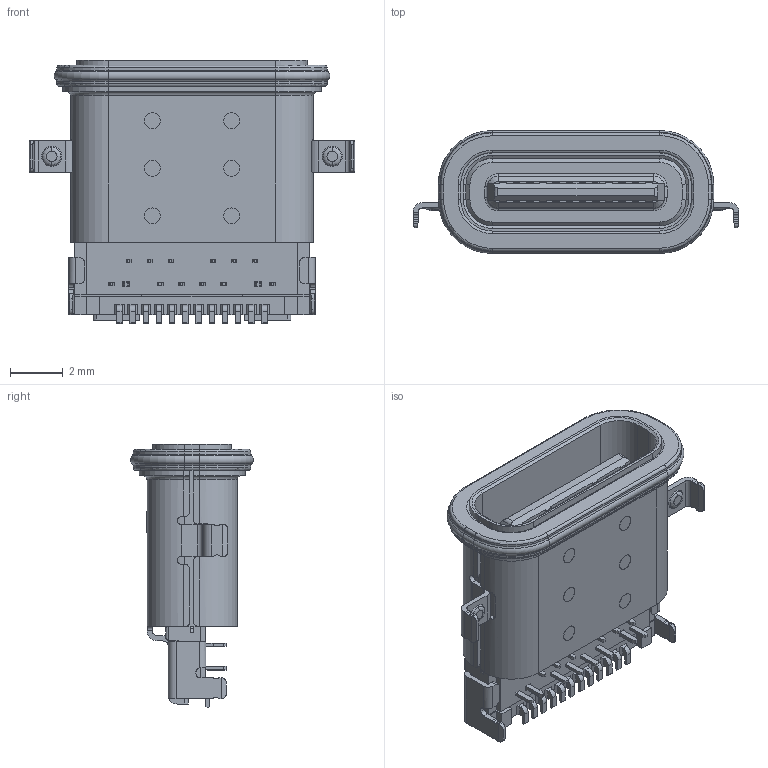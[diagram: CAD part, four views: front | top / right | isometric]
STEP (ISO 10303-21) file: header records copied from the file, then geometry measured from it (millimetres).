
FILE_DESCRIPTION (( 'STEP AP214' ), '1' );
FILE_NAME ('U5036-24PN1.06C9.85LF.STEP', '2026-06-01T00:51:01', ( '' ), ( '' ), 'SwSTEP 2.0', 'SolidWorks 2024', '' );
FILE_SCHEMA (( 'AUTOMOTIVE_DESIGN' ));
Length unit declared in the file: millimetre
Products named in the file (1): U5036-24PN1.06C9.85LF
Bounding box: 12.35 x 4.66 x 10 mm (x, y, z)
Volume: 162.6 mm3; surface area: 910.7 mm2
Topology: 2 solids, 60 shells, 1811 faces, 4722 edges, 3060 vertices
Faces by surface type: plane 1332, cylinder 357, torus 56, cone 36, bspline 30
Entity records: 57057 total; most frequent: CARTESIAN_POINT 12641, ORIENTED_EDGE 9432, DIRECTION 8789, EDGE_CURVE 4716, VECTOR 3685, LINE 3685, VERTEX_POINT 3060, AXIS2_PLACEMENT_3D 2552
